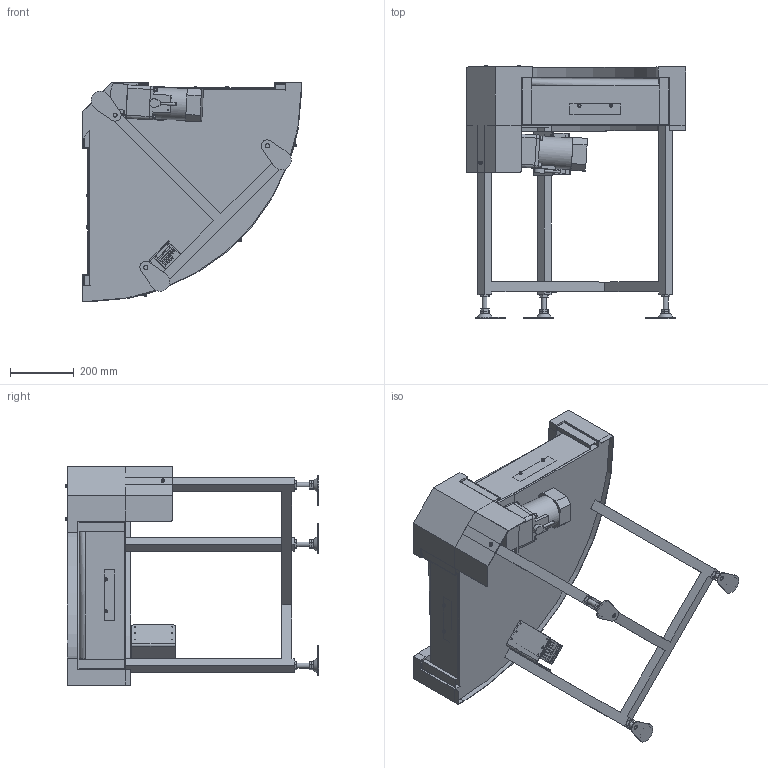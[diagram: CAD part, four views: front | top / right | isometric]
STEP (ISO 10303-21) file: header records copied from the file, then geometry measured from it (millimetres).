
FILE_DESCRIPTION( (''), '2;1');
FILE_NAME ('WEB-MBC2H-UD-320-400-90°-R-IVH-5-O-H.stp','2025-07-31T13:23:50',(''),(''),'spGate 20.6.2 (****-****-****-****)','','');
FILE_SCHEMA (('AUTOMOTIVE_DESIGN'));
Length unit declared in the file: millimetre
Products named in the file (35): WEB-MBC2H-UD-320-400-90_-R-IVH-5-O-H; TEMP_X_T-prt0; TEMP_X_T-prt1; TEMP_X_T-prt2; TEMP_X_T-prt3; TEMP_X_T-prt4; TEMP_X_T-prt5; TEMP_X_T-prt6; TEMP_X_T-prt7; TEMP_X_T-prt8; TEMP_X_T-prt9; TEMP_X_T-prt10; TEMP_X_T-prt11; TEMP_X_T-prt12; TEMP_X_T-prt13; TEMP_X_T-prt14; TEMP_X_T-prt15; TEMP_X_T-prt16; TEMP_X_T-prt17; TEMP_X_T-prt18; TEMP_X_T-prt19; TEMP_X_T-prt20; TEMP_X_T-prt21; TEMP_X_T-prt22; TEMP_X_T-prt23; TEMP_X_T-prt24; TEMP_X_T-prt25; TEMP_X_T-prt26; TEMP_X_T-prt27; TEMP_X_T-prt28; TEMP_X_T-prt29; TEMP_X_T-prt30; TEMP_X_T-prt31; TEMP_X_T-prt32; TEMP_X_T-prt33
Assembly tree (34 placements, depth 2):
  WEB-MBC2H-UD-320-400-90_-R-IVH-5-O-H
    TEMP_X_T-prt0
    TEMP_X_T-prt1
    TEMP_X_T-prt2
    TEMP_X_T-prt3
    TEMP_X_T-prt4
    TEMP_X_T-prt5
    TEMP_X_T-prt6
    TEMP_X_T-prt7
    TEMP_X_T-prt8
    TEMP_X_T-prt9
    TEMP_X_T-prt10
    TEMP_X_T-prt11
    TEMP_X_T-prt12
    TEMP_X_T-prt13
    TEMP_X_T-prt14
    TEMP_X_T-prt15
    TEMP_X_T-prt16
    TEMP_X_T-prt17
    TEMP_X_T-prt18
    TEMP_X_T-prt19
    TEMP_X_T-prt20
    TEMP_X_T-prt21
    TEMP_X_T-prt22
    TEMP_X_T-prt23
    TEMP_X_T-prt24
    TEMP_X_T-prt25
    TEMP_X_T-prt26
    TEMP_X_T-prt27
    TEMP_X_T-prt28
    TEMP_X_T-prt29
    TEMP_X_T-prt30
    TEMP_X_T-prt31
    TEMP_X_T-prt32
    TEMP_X_T-prt33
Bounding box: 688.1 x 794.6 x 688.1 mm (x, y, z)
Volume: 40633768.2 mm3; surface area: 3073675.9 mm2
Topology: 34 solids, 45 shells, 1519 faces, 3949 edges, 2672 vertices
Faces by surface type: plane 1134, cylinder 251, bspline 132, sphere 2
Full cylindrical faces by diameter (mm): 3.3 x6, 3.5 x12, 3.8 x2, 4 x11, 5 x5, 5.8 x10, 6 x4, 6.4 x6, 6.5 x2, 6.6 x2, 7 x5, 7.5 x1, 7.8 x1, 8 x6, 8.5 x8, 9 x14, 9.2 x12, 10 x16, 12.04 x1, 12.5 x6, 13 x7, 16 x9, 18 x1, 20 x1, 23 x1, 42 x1, 43 x1, 94 x1, 99 x1
Entity records: 83859 total; most frequent: CARTESIAN_POINT 14224, ORIENTED_EDGE 7890, DIRECTION 7372, COLOUR_RGB 5498, PRESENTATION_STYLE_ASSIGNMENT 5498, STYLED_ITEM 5498, EDGE_CURVE 3945, DRAUGHTING_PRE_DEFINED_CURVE_FONT 3945
